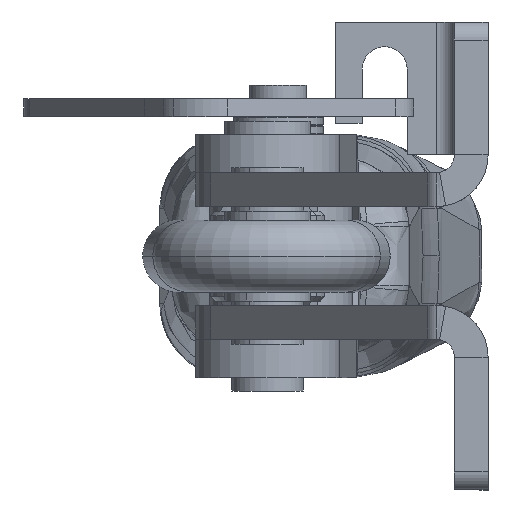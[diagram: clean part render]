
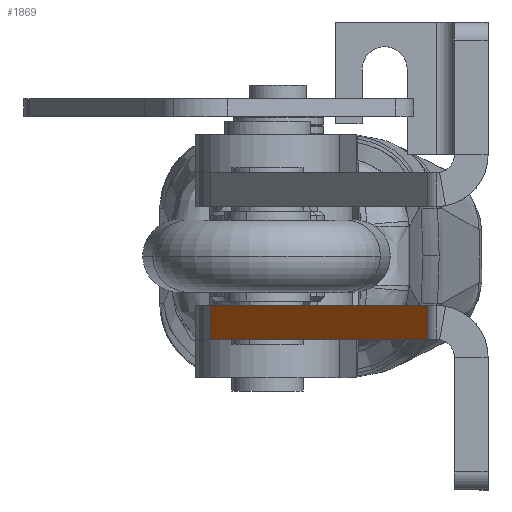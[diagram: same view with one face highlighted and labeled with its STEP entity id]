
A CAD part, left-side view. The second image highlights one B-rep face of the part: STEP entity #1869.
In plain terms, the highlighted planar face has unit normal (-0.61, 0.792, 0) as drawn and (0.61, 0.792, 0) by its records, which use the part's own axes.
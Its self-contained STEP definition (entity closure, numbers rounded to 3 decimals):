
#306 = AXIS2_PLACEMENT_3D ( 'NONE', #778, #863, #13546 ) ;
#420 = LINE ( 'NONE', #5820, #23285 ) ;
#778 = CARTESIAN_POINT ( 'NONE',  ( 21.72, 21.205, -3.75 ) ) ;
#863 = DIRECTION ( 'NONE',  ( 0.61, 0.792, 0. ) ) ;
#1869 = ADVANCED_FACE ( 'NONE', ( #12492 ), #11756, .T. ) ;
#2313 = VECTOR ( 'NONE', #16798, 1000. ) ;
#2588 = ORIENTED_EDGE ( 'NONE', *, *, #8767, .T. ) ;
#4336 = VERTEX_POINT ( 'NONE', #6829 ) ;
#4505 = VERTEX_POINT ( 'NONE', #6034 ) ;
#4791 = ORIENTED_EDGE ( 'NONE', *, *, #7390, .F. ) ;
#5820 = CARTESIAN_POINT ( 'NONE',  ( 21.72, 21.205, -3.75 ) ) ;
#6034 = CARTESIAN_POINT ( 'NONE',  ( 21.72, 21.205, 0. ) ) ;
#6758 = EDGE_CURVE ( 'NONE', #4505, #4336, #22749, .T. ) ;
#6829 = CARTESIAN_POINT ( 'NONE',  ( -9.619, 45.338, 0. ) ) ;
#7202 = DIRECTION ( 'NONE',  ( -0.792, 0.61, 0. ) ) ;
#7390 = EDGE_CURVE ( 'NONE', #22822, #4505, #420, .T. ) ;
#7643 = DIRECTION ( 'NONE',  ( 0., 0., 1. ) ) ;
#8767 = EDGE_CURVE ( 'NONE', #22822, #9495, #9422, .T. ) ;
#9422 = LINE ( 'NONE', #18513, #2313 ) ;
#9495 = VERTEX_POINT ( 'NONE', #11946 ) ;
#9911 = EDGE_LOOP ( 'NONE', ( #16875, #4791, #2588, #13904 ) ) ;
#11024 = DIRECTION ( 'NONE',  ( 0., 0., 1. ) ) ;
#11756 = PLANE ( 'NONE',  #306 ) ;
#11946 = CARTESIAN_POINT ( 'NONE',  ( -9.619, 45.338, -3.75 ) ) ;
#12120 = VECTOR ( 'NONE', #11024, 1000. ) ;
#12492 = FACE_OUTER_BOUND ( 'NONE', #9911, .T. ) ;
#13249 = LINE ( 'NONE', #21756, #12120 ) ;
#13546 = DIRECTION ( 'NONE',  ( -0.792, 0.61, 0. ) ) ;
#13610 = CARTESIAN_POINT ( 'NONE',  ( 21.72, 21.205, -3.75 ) ) ;
#13904 = ORIENTED_EDGE ( 'NONE', *, *, #22528, .T. ) ;
#16165 = CARTESIAN_POINT ( 'NONE',  ( 21.72, 21.205, 0. ) ) ;
#16798 = DIRECTION ( 'NONE',  ( -0.792, 0.61, 0. ) ) ;
#16875 = ORIENTED_EDGE ( 'NONE', *, *, #6758, .F. ) ;
#18513 = CARTESIAN_POINT ( 'NONE',  ( 21.72, 21.205, -3.75 ) ) ;
#19062 = VECTOR ( 'NONE', #7202, 1000. ) ;
#21756 = CARTESIAN_POINT ( 'NONE',  ( -9.619, 45.338, -3.75 ) ) ;
#22528 = EDGE_CURVE ( 'NONE', #9495, #4336, #13249, .T. ) ;
#22749 = LINE ( 'NONE', #16165, #19062 ) ;
#22822 = VERTEX_POINT ( 'NONE', #13610 ) ;
#23285 = VECTOR ( 'NONE', #7643, 1000. ) ;
